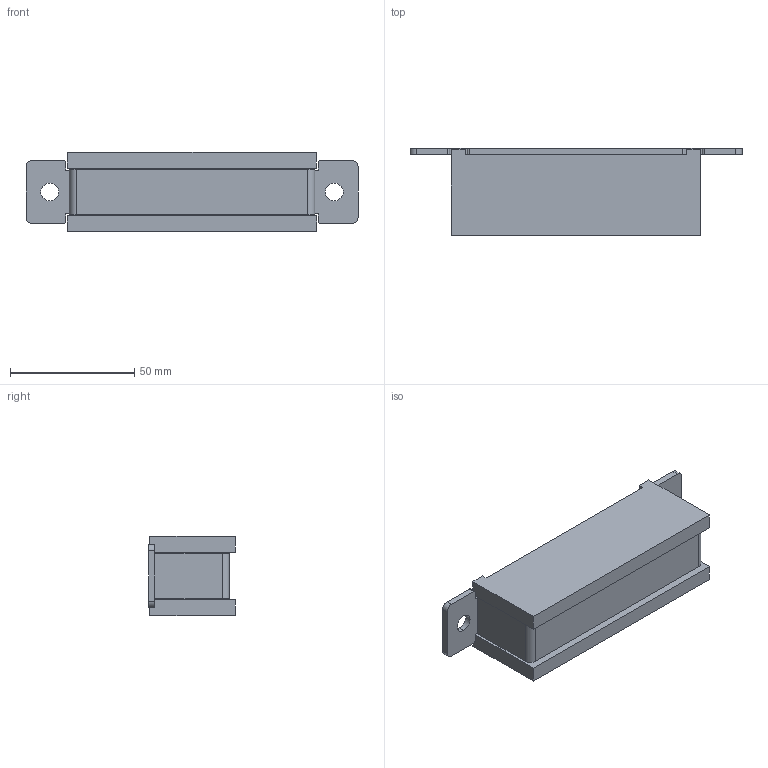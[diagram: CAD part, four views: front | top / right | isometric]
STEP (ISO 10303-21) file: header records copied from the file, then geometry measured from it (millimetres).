
FILE_DESCRIPTION (( 'STEP AP203' ), '1' );
FILE_NAME ('BP0120.STEP', '2018-07-26T20:14:52', ( '' ), ( '' ), 'SwSTEP 2.0', 'SolidWorks 2015', '' );
FILE_SCHEMA (( 'CONFIG_CONTROL_DESIGN' ));
Length unit declared in the file: inch
Products named in the file (1): BP0120
Bounding box: 133.35 x 34.92 x 31.75 mm (x, y, z)
Volume: 93288 mm3; surface area: 43562.3 mm2
Topology: 8 solids, 8 shells, 120 faces, 296 edges, 192 vertices
Faces by surface type: plane 84, cylinder 36
Entity records: 3597 total; most frequent: DIRECTION 610, CARTESIAN_POINT 609, ORIENTED_EDGE 592, EDGE_CURVE 296, VECTOR 224, LINE 224, AXIS2_PLACEMENT_3D 193, VERTEX_POINT 192
